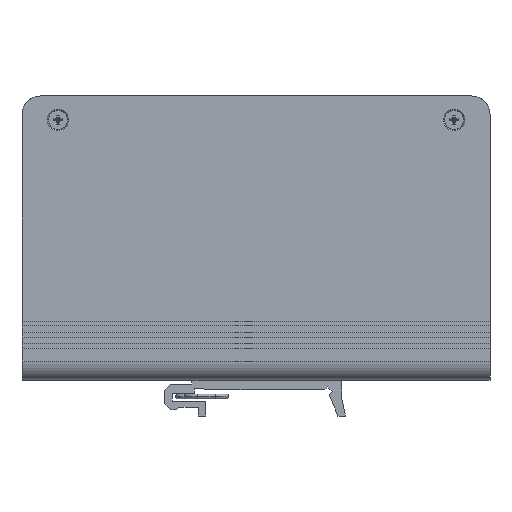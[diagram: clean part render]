
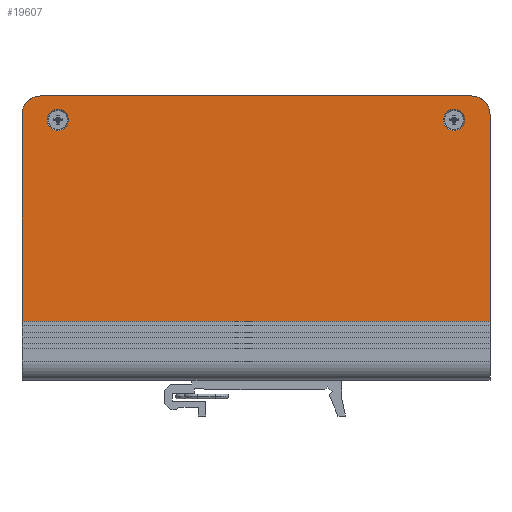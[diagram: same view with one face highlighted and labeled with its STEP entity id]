
A CAD part, front view. The second image highlights one B-rep face of the part: STEP entity #19607.
In plain terms, the highlighted planar face has unit normal (0, -1, 0).
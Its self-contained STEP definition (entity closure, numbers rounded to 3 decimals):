
#2612=DIRECTION('',(0.,0.,1.));
#2613=VECTOR('',#2612,55.2);
#2614=CARTESIAN_POINT('',(-62.5,-19.7,-22.2));
#2615=LINE('',#2614,#2613);
#3226=DIRECTION('',(0.,0.,1.));
#3227=VECTOR('',#3226,55.2);
#3228=CARTESIAN_POINT('',(62.5,-19.7,-22.2));
#3229=LINE('',#3228,#3227);
#5152=CARTESIAN_POINT('',(-57.5,-19.7,33.));
#5153=DIRECTION('',(0.,-1.,0.));
#5154=DIRECTION('',(0.,0.,1.));
#5155=AXIS2_PLACEMENT_3D('',#5152,#5153,#5154);
#5157=CARTESIAN_POINT('',(57.5,-19.7,33.));
#5158=DIRECTION('',(0.,-1.,0.));
#5159=DIRECTION('',(1.,0.,0.));
#5160=AXIS2_PLACEMENT_3D('',#5157,#5158,#5159);
#5162=DIRECTION('',(-1.,0.,0.));
#5163=VECTOR('',#5162,125.);
#5164=CARTESIAN_POINT('',(62.5,-19.7,-22.2));
#5165=LINE('',#5164,#5163);
#5166=CARTESIAN_POINT('',(-52.9,-19.7,31.6));
#5167=DIRECTION('',(0.,1.,0.));
#5168=DIRECTION('',(1.,0.,0.));
#5169=AXIS2_PLACEMENT_3D('',#5166,#5167,#5168);
#5171=CARTESIAN_POINT('',(-52.9,-19.7,31.6));
#5172=DIRECTION('',(0.,1.,0.));
#5173=DIRECTION('',(-1.,0.,0.));
#5174=AXIS2_PLACEMENT_3D('',#5171,#5172,#5173);
#5176=CARTESIAN_POINT('',(52.9,-19.7,31.6));
#5177=DIRECTION('',(0.,1.,0.));
#5178=DIRECTION('',(1.,0.,0.));
#5179=AXIS2_PLACEMENT_3D('',#5176,#5177,#5178);
#5181=CARTESIAN_POINT('',(52.9,-19.7,31.6));
#5182=DIRECTION('',(0.,1.,0.));
#5183=DIRECTION('',(-1.,0.,0.));
#5184=AXIS2_PLACEMENT_3D('',#5181,#5182,#5183);
#5199=DIRECTION('',(-1.,0.,0.));
#5200=VECTOR('',#5199,115.);
#5201=CARTESIAN_POINT('',(57.5,-19.7,38.));
#5202=LINE('',#5201,#5200);
#10414=CARTESIAN_POINT('',(62.5,-19.7,-22.2));
#10415=VERTEX_POINT('',#10414);
#10442=CARTESIAN_POINT('',(-62.5,-19.7,-22.2));
#10443=VERTEX_POINT('',#10442);
#10444=CARTESIAN_POINT('',(-57.5,-19.7,38.));
#10445=CARTESIAN_POINT('',(-62.5,-19.7,33.));
#10446=VERTEX_POINT('',#10444);
#10447=VERTEX_POINT('',#10445);
#10448=CARTESIAN_POINT('',(62.5,-19.7,33.));
#10449=CARTESIAN_POINT('',(57.5,-19.7,38.));
#10450=VERTEX_POINT('',#10448);
#10451=VERTEX_POINT('',#10449);
#10500=CARTESIAN_POINT('',(-50.05,-19.7,31.6));
#10501=CARTESIAN_POINT('',(-55.75,-19.7,31.6));
#10502=VERTEX_POINT('',#10500);
#10503=VERTEX_POINT('',#10501);
#10504=CARTESIAN_POINT('',(55.75,-19.7,31.6));
#10505=CARTESIAN_POINT('',(50.05,-19.7,31.6));
#10506=VERTEX_POINT('',#10504);
#10507=VERTEX_POINT('',#10505);
#19579=CARTESIAN_POINT('',(62.5,-19.7,-22.2));
#19580=DIRECTION('',(0.,-1.,0.));
#19581=DIRECTION('',(0.,0.,1.));
#19582=AXIS2_PLACEMENT_3D('',#19579,#19580,#19581);
#19583=PLANE('',#19582);
#19585=ORIENTED_EDGE('',*,*,#19584,.F.);
#19587=ORIENTED_EDGE('',*,*,#19586,.F.);
#19589=ORIENTED_EDGE('',*,*,#19588,.F.);
#19590=ORIENTED_EDGE('',*,*,#16891,.F.);
#19591=ORIENTED_EDGE('',*,*,#19567,.T.);
#19592=ORIENTED_EDGE('',*,*,#15978,.T.);
#19593=EDGE_LOOP('',(#19585,#19587,#19589,#19590,#19591,#19592));
#19594=FACE_OUTER_BOUND('',#19593,.F.);
#19596=ORIENTED_EDGE('',*,*,#19595,.F.);
#19598=ORIENTED_EDGE('',*,*,#19597,.F.);
#19599=EDGE_LOOP('',(#19596,#19598));
#19600=FACE_BOUND('',#19599,.F.);
#19602=ORIENTED_EDGE('',*,*,#19601,.F.);
#19604=ORIENTED_EDGE('',*,*,#19603,.F.);
#19605=EDGE_LOOP('',(#19602,#19604));
#19606=FACE_BOUND('',#19605,.F.);
#19607=ADVANCED_FACE('',(#19594,#19600,#19606),#19583,.T.);
#5156=CIRCLE('',#5155,5.);
#5161=CIRCLE('',#5160,5.);
#5170=CIRCLE('',#5169,2.85);
#5175=CIRCLE('',#5174,2.85);
#5180=CIRCLE('',#5179,2.85);
#5185=CIRCLE('',#5184,2.85);
#15978=EDGE_CURVE('',#10443,#10447,#2615,.T.);
#16891=EDGE_CURVE('',#10415,#10450,#3229,.T.);
#19567=EDGE_CURVE('',#10415,#10443,#5165,.T.);
#19584=EDGE_CURVE('',#10446,#10447,#5156,.T.);
#19586=EDGE_CURVE('',#10451,#10446,#5202,.T.);
#19588=EDGE_CURVE('',#10450,#10451,#5161,.T.);
#19595=EDGE_CURVE('',#10502,#10503,#5170,.T.);
#19597=EDGE_CURVE('',#10503,#10502,#5175,.T.);
#19601=EDGE_CURVE('',#10506,#10507,#5180,.T.);
#19603=EDGE_CURVE('',#10507,#10506,#5185,.T.);
